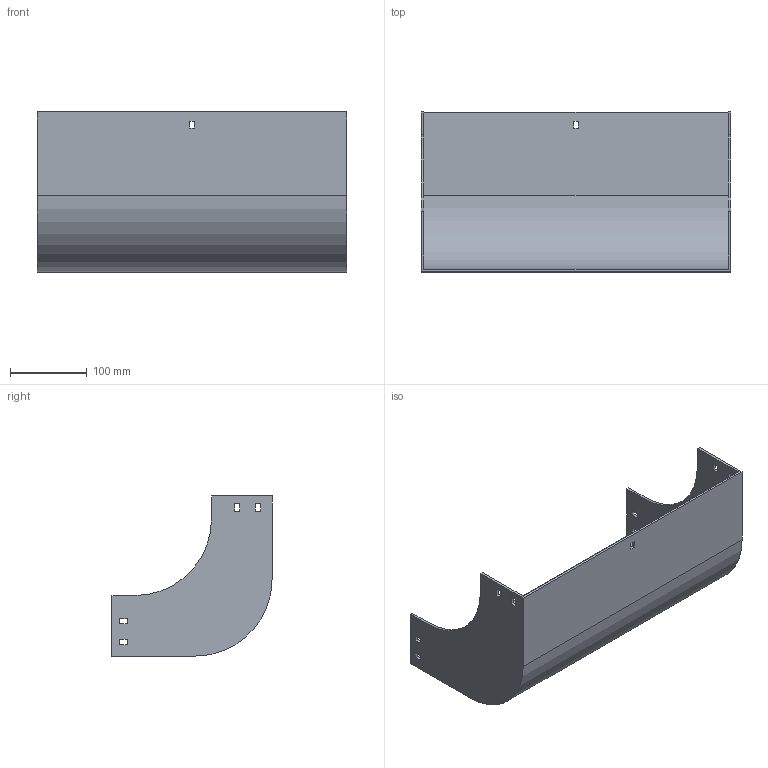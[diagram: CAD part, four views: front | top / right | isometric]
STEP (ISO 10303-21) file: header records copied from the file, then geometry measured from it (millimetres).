
FILE_DESCRIPTION (( 'STEP AP214' ), '1' );
FILE_NAME ('30F1C400.step', '2025-02-21T13:02:17', ( '' ), ( '' ), 'SwSTEP 2.0', 'SolidWorks 2023', '' );
FILE_SCHEMA (( 'AUTOMOTIVE_DESIGN' ));
Length unit declared in the file: millimetre
Products named in the file (1): 30F1C400
Bounding box: 404 x 209 x 209 mm (x, y, z)
Volume: 702451.1 mm3; surface area: 407993.4 mm2
Topology: 1 solids, 1 shells, 58 faces, 168 edges, 112 vertices
Faces by surface type: plane 54, cylinder 4
Entity records: 1943 total; most frequent: CARTESIAN_POINT 339, ORIENTED_EDGE 336, DIRECTION 294, EDGE_CURVE 168, LINE 160, VECTOR 160, VERTEX_POINT 112, EDGE_LOOP 78
